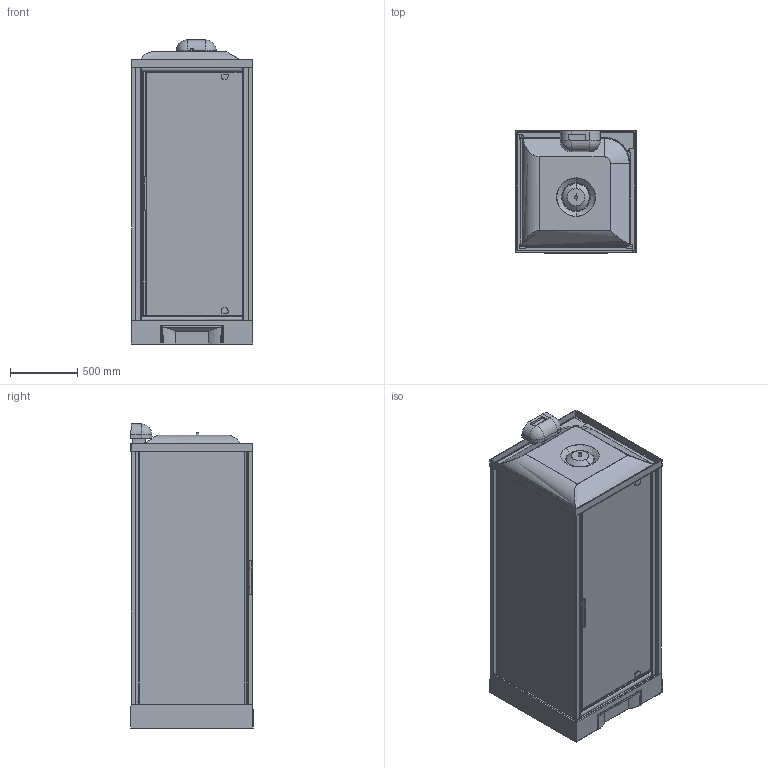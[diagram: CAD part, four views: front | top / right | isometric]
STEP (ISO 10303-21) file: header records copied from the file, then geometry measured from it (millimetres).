
FILE_DESCRIPTION(('STEP AP203'),'2;1');
FILE_NAME('NNH GF 90 M 19 N.stp','2015-09-04T15:17:08',(''),(''),'2014.1.117','THINKDESIGN','');
FILE_SCHEMA(('CONFIG_CONTROL_DESIGN'));
Length unit declared in the file: millimetre
Products named in the file (1): top
Bounding box: 904 x 907.51 x 2254.33 mm (x, y, z)
Volume: 215338611.4 mm3; surface area: 20962625.8 mm2
Topology: 43 solids, 43 shells, 844 faces, 2036 edges, 1289 vertices
Faces by surface type: bspline 430, plane 286, cylinder 128
Entity records: 93050 total; most frequent: CARTESIAN_POINT 76193, ORIENTED_EDGE 4012, DIRECTION 2404, EDGE_CURVE 2006, VERTEX_POINT 1281, EDGE_LOOP 877, VECTOR 870, LINE 870
